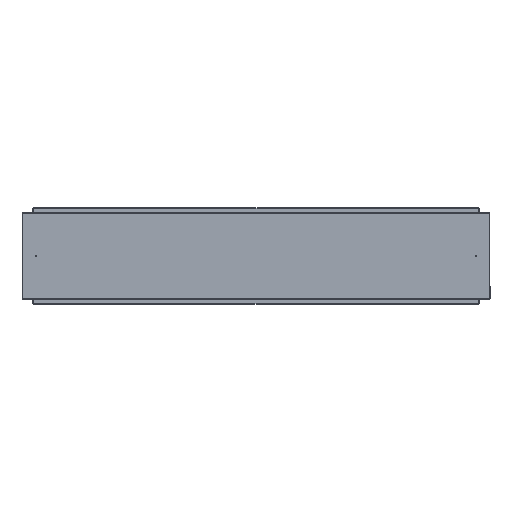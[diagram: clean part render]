
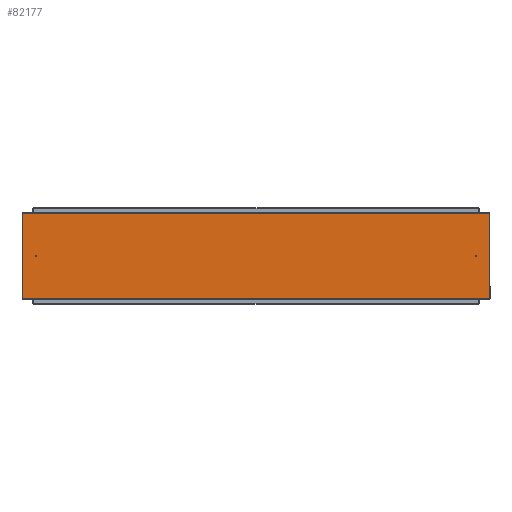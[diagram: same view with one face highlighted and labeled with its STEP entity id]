
A CAD part, left-side view. The second image highlights one B-rep face of the part: STEP entity #82177.
In plain terms, the highlighted planar face has unit normal (-1, 0, 0) as drawn and (0, 0, -1) by its records, which use the part's own axes.
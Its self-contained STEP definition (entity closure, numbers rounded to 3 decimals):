
#2508 = VECTOR ( 'NONE', #80752, 1000. ) ;
#3206 = CARTESIAN_POINT ( 'NONE',  ( -183.49, -998.5, 0. ) ) ;
#5600 = CARTESIAN_POINT ( 'NONE',  ( -183.49, -998.5, 0. ) ) ;
#6946 = CARTESIAN_POINT ( 'NONE',  ( -183.49, 998.5, 0. ) ) ;
#8258 = LINE ( 'NONE', #60550, #34257 ) ;
#10262 = DIRECTION ( 'NONE',  ( -1., 0., 0. ) ) ;
#11414 = DIRECTION ( 'NONE',  ( 1., 0., 0. ) ) ;
#14088 = LINE ( 'NONE', #6946, #56580 ) ;
#16321 = EDGE_CURVE ( 'NONE', #73753, #45433, #47394, .T. ) ;
#17634 = EDGE_CURVE ( 'NONE', #66355, #90034, #14088, .T. ) ;
#21733 = CARTESIAN_POINT ( 'NONE',  ( 183.49, 998.5, 0. ) ) ;
#29436 = CARTESIAN_POINT ( 'NONE',  ( -183.49, -998.5, 0. ) ) ;
#31042 = LINE ( 'NONE', #29436, #38085 ) ;
#31428 = AXIS2_PLACEMENT_3D ( 'NONE', #3206, #101135, #11414 ) ;
#32777 = EDGE_CURVE ( 'NONE', #45433, #66355, #8258, .T. ) ;
#34257 = VECTOR ( 'NONE', #10262, 1000. ) ;
#38085 = VECTOR ( 'NONE', #39789, 1000. ) ;
#39789 = DIRECTION ( 'NONE',  ( 1., 0., 0. ) ) ;
#45433 = VERTEX_POINT ( 'NONE', #64794 ) ;
#47394 = LINE ( 'NONE', #21733, #2508 ) ;
#49134 = ORIENTED_EDGE ( 'NONE', *, *, #16321, .F. ) ;
#52256 = ORIENTED_EDGE ( 'NONE', *, *, #17634, .F. ) ;
#56580 = VECTOR ( 'NONE', #98271, 1000. ) ;
#59530 = CARTESIAN_POINT ( 'NONE',  ( 183.49, -998.5, 0. ) ) ;
#59563 = FACE_OUTER_BOUND ( 'NONE', #94395, .T. ) ;
#60082 = PLANE ( 'NONE',  #31428 ) ;
#60550 = CARTESIAN_POINT ( 'NONE',  ( -183.49, 998.5, 0. ) ) ;
#64794 = CARTESIAN_POINT ( 'NONE',  ( 183.49, 998.5, 0. ) ) ;
#66355 = VERTEX_POINT ( 'NONE', #85674 ) ;
#67540 = ORIENTED_EDGE ( 'NONE', *, *, #79867, .F. ) ;
#73753 = VERTEX_POINT ( 'NONE', #59530 ) ;
#77181 = ORIENTED_EDGE ( 'NONE', *, *, #32777, .F. ) ;
#79867 = EDGE_CURVE ( 'NONE', #90034, #73753, #31042, .T. ) ;
#80752 = DIRECTION ( 'NONE',  ( 0., 1., 0. ) ) ;
#82177 = ADVANCED_FACE ( 'NONE', ( #59563 ), #60082, .F. ) ;
#85674 = CARTESIAN_POINT ( 'NONE',  ( -183.49, 998.5, 0. ) ) ;
#90034 = VERTEX_POINT ( 'NONE', #5600 ) ;
#94395 = EDGE_LOOP ( 'NONE', ( #52256, #77181, #49134, #67540 ) ) ;
#98271 = DIRECTION ( 'NONE',  ( 0., -1., 0. ) ) ;
#101135 = DIRECTION ( 'NONE',  ( 0., 0., 1. ) ) ;
